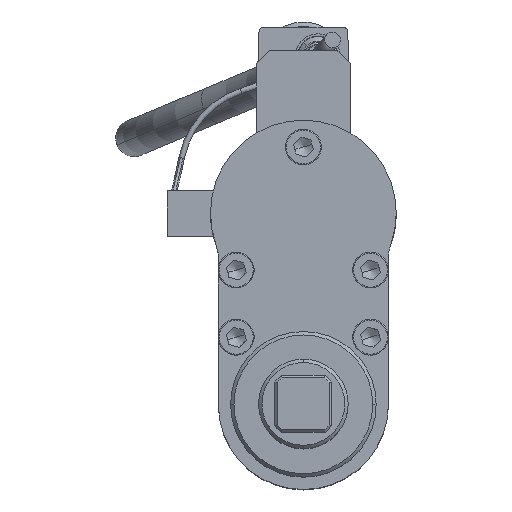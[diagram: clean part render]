
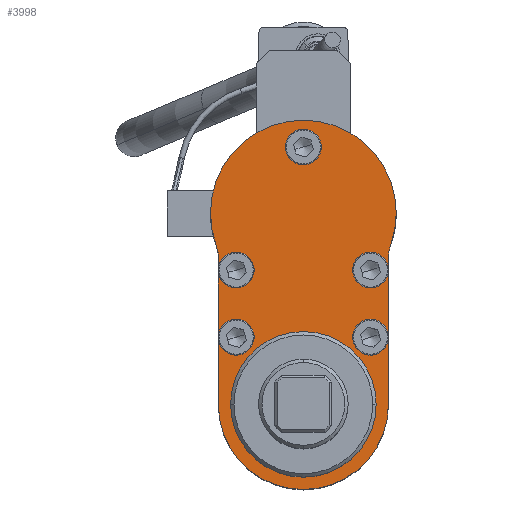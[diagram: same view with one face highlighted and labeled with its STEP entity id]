
A CAD part, top view. The second image highlights one B-rep face of the part: STEP entity #3998.
In plain terms, the highlighted planar face has unit normal (0, 0, 1).
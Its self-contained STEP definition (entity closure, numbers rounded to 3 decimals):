
#3384=AXIS2_PLACEMENT_3D('Circle Axis2P3D',#3382,#3383,$) ;
#3410=AXIS2_PLACEMENT_3D('Circle Axis2P3D',#3408,#3409,$) ;
#3646=AXIS2_PLACEMENT_3D('Circle Axis2P3D',#3644,#3645,$) ;
#3859=AXIS2_PLACEMENT_3D('Circle Axis2P3D',#3857,#3858,$) ;
#3876=AXIS2_PLACEMENT_3D('Circle Axis2P3D',#3874,#3875,$) ;
#3889=AXIS2_PLACEMENT_3D('Plane Axis2P3D',#3886,#3887,#3888) ;
#3893=AXIS2_PLACEMENT_3D('Circle Axis2P3D',#3891,#3892,$) ;
#3906=AXIS2_PLACEMENT_3D('Circle Axis2P3D',#3904,#3905,$) ;
#3915=AXIS2_PLACEMENT_3D('Circle Axis2P3D',#3913,#3914,$) ;
#3924=AXIS2_PLACEMENT_3D('Circle Axis2P3D',#3922,#3923,$) ;
#3933=AXIS2_PLACEMENT_3D('Circle Axis2P3D',#3931,#3932,$) ;
#3942=AXIS2_PLACEMENT_3D('Circle Axis2P3D',#3940,#3941,$) ;
#3951=AXIS2_PLACEMENT_3D('Circle Axis2P3D',#3949,#3950,$) ;
#3960=AXIS2_PLACEMENT_3D('Circle Axis2P3D',#3958,#3959,$) ;
#3969=AXIS2_PLACEMENT_3D('Circle Axis2P3D',#3967,#3968,$) ;
#3978=AXIS2_PLACEMENT_3D('Circle Axis2P3D',#3976,#3977,$) ;
#3987=AXIS2_PLACEMENT_3D('Circle Axis2P3D',#3985,#3986,$) ;
#3382=CARTESIAN_POINT('Axis2P3D Location',(-30.,-55.5,620.1)) ;
#3386=CARTESIAN_POINT('Vertex',(-34.553,-53.013,620.1)) ;
#3388=CARTESIAN_POINT('Vertex',(-25.447,-57.987,620.1)) ;
#3408=CARTESIAN_POINT('Axis2P3D Location',(-30.,-55.5,620.1)) ;
#3634=CARTESIAN_POINT('Vertex',(38.929,-14.379,620.1)) ;
#3641=CARTESIAN_POINT('Vertex',(-38.929,-14.379,620.1)) ;
#3644=CARTESIAN_POINT('Axis2P3D Location',(0.,0.,620.1)) ;
#3689=CARTESIAN_POINT('Vertex',(38.,-19.577,620.1)) ;
#3692=CARTESIAN_POINT('Line Origine',(38.,-52.538,620.1)) ;
#3696=CARTESIAN_POINT('Vertex',(38.,-85.5,620.1)) ;
#3771=CARTESIAN_POINT('Vertex',(-38.,-85.5,620.1)) ;
#3774=CARTESIAN_POINT('Line Origine',(-38.,-52.538,620.1)) ;
#3778=CARTESIAN_POINT('Vertex',(-38.,-19.577,620.1)) ;
#3857=CARTESIAN_POINT('Axis2P3D Location',(-53.,-19.577,620.1)) ;
#3874=CARTESIAN_POINT('Axis2P3D Location',(53.,-19.577,620.1)) ;
#3886=CARTESIAN_POINT('Axis2P3D Location',(0.,0.,620.1)) ;
#3891=CARTESIAN_POINT('Axis2P3D Location',(0.,-85.5,620.1)) ;
#3904=CARTESIAN_POINT('Axis2P3D Location',(-30.,-25.5,620.1)) ;
#3908=CARTESIAN_POINT('Vertex',(-34.553,-23.013,620.1)) ;
#3910=CARTESIAN_POINT('Vertex',(-25.447,-27.987,620.1)) ;
#3913=CARTESIAN_POINT('Axis2P3D Location',(-30.,-25.5,620.1)) ;
#3922=CARTESIAN_POINT('Axis2P3D Location',(0.,29.5,620.1)) ;
#3926=CARTESIAN_POINT('Vertex',(-4.553,31.987,620.1)) ;
#3928=CARTESIAN_POINT('Vertex',(4.553,27.013,620.1)) ;
#3931=CARTESIAN_POINT('Axis2P3D Location',(0.,29.5,620.1)) ;
#3940=CARTESIAN_POINT('Axis2P3D Location',(0.,-85.5,620.1)) ;
#3944=CARTESIAN_POINT('Vertex',(32.5,-85.5,620.1)) ;
#3946=CARTESIAN_POINT('Vertex',(-32.5,-85.5,620.1)) ;
#3949=CARTESIAN_POINT('Axis2P3D Location',(0.,-85.5,620.1)) ;
#3958=CARTESIAN_POINT('Axis2P3D Location',(30.,-55.5,620.1)) ;
#3962=CARTESIAN_POINT('Vertex',(25.447,-53.013,620.1)) ;
#3964=CARTESIAN_POINT('Vertex',(34.553,-57.987,620.1)) ;
#3967=CARTESIAN_POINT('Axis2P3D Location',(30.,-55.5,620.1)) ;
#3976=CARTESIAN_POINT('Axis2P3D Location',(30.,-25.5,620.1)) ;
#3980=CARTESIAN_POINT('Vertex',(25.447,-23.013,620.1)) ;
#3982=CARTESIAN_POINT('Vertex',(34.553,-27.987,620.1)) ;
#3985=CARTESIAN_POINT('Axis2P3D Location',(30.,-25.5,620.1)) ;
#3383=DIRECTION('Axis2P3D Direction',(0.,-0.,1.)) ;
#3409=DIRECTION('Axis2P3D Direction',(0.,-0.,1.)) ;
#3645=DIRECTION('Axis2P3D Direction',(0.,-0.,1.)) ;
#3693=DIRECTION('Vector Direction',(0.,1.,0.)) ;
#3775=DIRECTION('Vector Direction',(0.,1.,0.)) ;
#3858=DIRECTION('Axis2P3D Direction',(0.,-0.,1.)) ;
#3875=DIRECTION('Axis2P3D Direction',(0.,-0.,1.)) ;
#3887=DIRECTION('Axis2P3D Direction',(0.,-0.,1.)) ;
#3888=DIRECTION('Axis2P3D XDirection',(1.,0.,0.)) ;
#3892=DIRECTION('Axis2P3D Direction',(0.,-0.,1.)) ;
#3905=DIRECTION('Axis2P3D Direction',(0.,-0.,1.)) ;
#3914=DIRECTION('Axis2P3D Direction',(0.,-0.,1.)) ;
#3923=DIRECTION('Axis2P3D Direction',(0.,-0.,1.)) ;
#3932=DIRECTION('Axis2P3D Direction',(0.,-0.,1.)) ;
#3941=DIRECTION('Axis2P3D Direction',(0.,-0.,1.)) ;
#3950=DIRECTION('Axis2P3D Direction',(0.,-0.,1.)) ;
#3959=DIRECTION('Axis2P3D Direction',(0.,-0.,1.)) ;
#3968=DIRECTION('Axis2P3D Direction',(0.,-0.,1.)) ;
#3977=DIRECTION('Axis2P3D Direction',(0.,-0.,1.)) ;
#3986=DIRECTION('Axis2P3D Direction',(0.,-0.,1.)) ;
#3694=VECTOR('Line Direction',#3693,1.) ;
#3776=VECTOR('Line Direction',#3775,1.) ;
#3897=ORIENTED_EDGE('',*,*,#3648,.T.) ;
#3898=ORIENTED_EDGE('',*,*,#3861,.T.) ;
#3899=ORIENTED_EDGE('',*,*,#3780,.T.) ;
#3900=ORIENTED_EDGE('',*,*,#3895,.T.) ;
#3901=ORIENTED_EDGE('',*,*,#3698,.T.) ;
#3902=ORIENTED_EDGE('',*,*,#3878,.T.) ;
#3919=ORIENTED_EDGE('',*,*,#3912,.F.) ;
#3920=ORIENTED_EDGE('',*,*,#3917,.F.) ;
#3937=ORIENTED_EDGE('',*,*,#3930,.F.) ;
#3938=ORIENTED_EDGE('',*,*,#3935,.F.) ;
#3955=ORIENTED_EDGE('',*,*,#3948,.F.) ;
#3956=ORIENTED_EDGE('',*,*,#3953,.F.) ;
#3973=ORIENTED_EDGE('',*,*,#3966,.F.) ;
#3974=ORIENTED_EDGE('',*,*,#3971,.F.) ;
#3991=ORIENTED_EDGE('',*,*,#3984,.F.) ;
#3992=ORIENTED_EDGE('',*,*,#3989,.F.) ;
#3995=ORIENTED_EDGE('',*,*,#3390,.F.) ;
#3996=ORIENTED_EDGE('',*,*,#3412,.F.) ;
#3921=FACE_BOUND('',#3918,.T.) ;
#3939=FACE_BOUND('',#3936,.T.) ;
#3957=FACE_BOUND('',#3954,.T.) ;
#3975=FACE_BOUND('',#3972,.T.) ;
#3993=FACE_BOUND('',#3990,.T.) ;
#3997=FACE_BOUND('',#3994,.T.) ;
#3998=ADVANCED_FACE('AOD-325-800.1\\AOD325-800.1\\Hauptk\X2\00F6\X0\rper',(#3903,#3921,#3939,#3957,#3975,#3993,#3997),#3890,.T.) ;
#3385=CIRCLE('generated circle',#3384,5.188) ;
#3411=CIRCLE('generated circle',#3410,5.188) ;
#3647=CIRCLE('generated circle',#3646,41.5) ;
#3860=CIRCLE('generated circle',#3859,15.) ;
#3877=CIRCLE('generated circle',#3876,15.) ;
#3894=CIRCLE('generated circle',#3893,38.) ;
#3907=CIRCLE('generated circle',#3906,5.188) ;
#3916=CIRCLE('generated circle',#3915,5.188) ;
#3925=CIRCLE('generated circle',#3924,5.188) ;
#3934=CIRCLE('generated circle',#3933,5.188) ;
#3943=CIRCLE('generated circle',#3942,32.5) ;
#3952=CIRCLE('generated circle',#3951,32.5) ;
#3961=CIRCLE('generated circle',#3960,5.188) ;
#3970=CIRCLE('generated circle',#3969,5.188) ;
#3979=CIRCLE('generated circle',#3978,5.188) ;
#3988=CIRCLE('generated circle',#3987,5.188) ;
#3390=EDGE_CURVE('',#3387,#3389,#3385,.T.) ;
#3412=EDGE_CURVE('',#3389,#3387,#3411,.T.) ;
#3648=EDGE_CURVE('',#3635,#3642,#3647,.T.) ;
#3698=EDGE_CURVE('',#3697,#3690,#3695,.T.) ;
#3780=EDGE_CURVE('',#3779,#3772,#3777,.F.) ;
#3861=EDGE_CURVE('',#3642,#3779,#3860,.F.) ;
#3878=EDGE_CURVE('',#3690,#3635,#3877,.F.) ;
#3895=EDGE_CURVE('',#3772,#3697,#3894,.T.) ;
#3912=EDGE_CURVE('',#3909,#3911,#3907,.T.) ;
#3917=EDGE_CURVE('',#3911,#3909,#3916,.T.) ;
#3930=EDGE_CURVE('',#3927,#3929,#3925,.T.) ;
#3935=EDGE_CURVE('',#3929,#3927,#3934,.T.) ;
#3948=EDGE_CURVE('',#3945,#3947,#3943,.T.) ;
#3953=EDGE_CURVE('',#3947,#3945,#3952,.T.) ;
#3966=EDGE_CURVE('',#3963,#3965,#3961,.T.) ;
#3971=EDGE_CURVE('',#3965,#3963,#3970,.T.) ;
#3984=EDGE_CURVE('',#3981,#3983,#3979,.T.) ;
#3989=EDGE_CURVE('',#3983,#3981,#3988,.T.) ;
#3896=EDGE_LOOP('',(#3897,#3898,#3899,#3900,#3901,#3902)) ;
#3918=EDGE_LOOP('',(#3919,#3920)) ;
#3936=EDGE_LOOP('',(#3937,#3938)) ;
#3954=EDGE_LOOP('',(#3955,#3956)) ;
#3972=EDGE_LOOP('',(#3973,#3974)) ;
#3990=EDGE_LOOP('',(#3991,#3992)) ;
#3994=EDGE_LOOP('',(#3995,#3996)) ;
#3903=FACE_OUTER_BOUND('',#3896,.T.) ;
#3695=LINE('Line',#3692,#3694) ;
#3777=LINE('Line',#3774,#3776) ;
#3890=PLANE('Plane',#3889) ;
#3387=VERTEX_POINT('',#3386) ;
#3389=VERTEX_POINT('',#3388) ;
#3635=VERTEX_POINT('',#3634) ;
#3642=VERTEX_POINT('',#3641) ;
#3690=VERTEX_POINT('',#3689) ;
#3697=VERTEX_POINT('',#3696) ;
#3772=VERTEX_POINT('',#3771) ;
#3779=VERTEX_POINT('',#3778) ;
#3909=VERTEX_POINT('',#3908) ;
#3911=VERTEX_POINT('',#3910) ;
#3927=VERTEX_POINT('',#3926) ;
#3929=VERTEX_POINT('',#3928) ;
#3945=VERTEX_POINT('',#3944) ;
#3947=VERTEX_POINT('',#3946) ;
#3963=VERTEX_POINT('',#3962) ;
#3965=VERTEX_POINT('',#3964) ;
#3981=VERTEX_POINT('',#3980) ;
#3983=VERTEX_POINT('',#3982) ;
